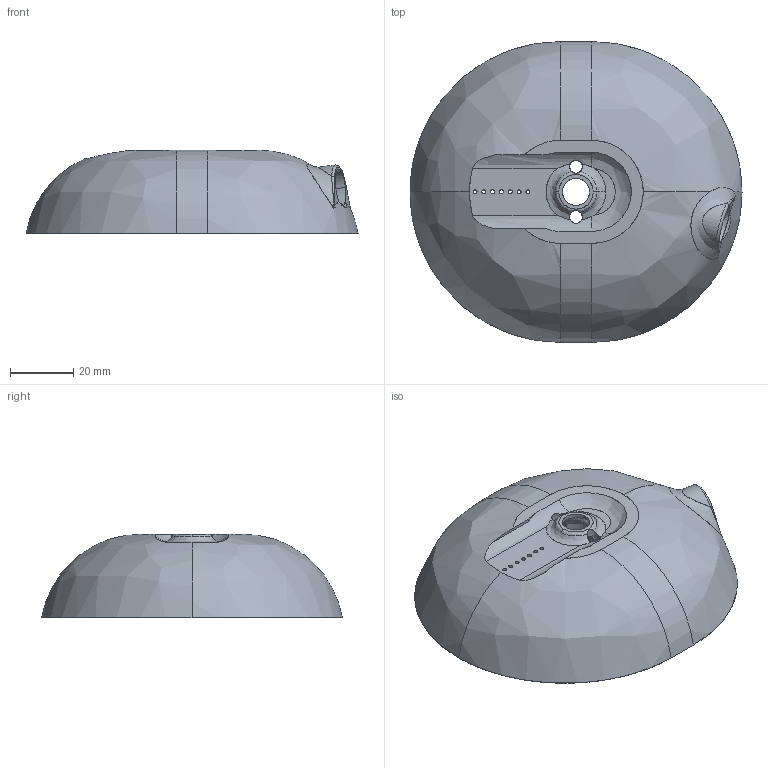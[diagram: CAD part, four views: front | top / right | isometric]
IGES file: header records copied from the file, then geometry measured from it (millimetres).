
Start section: SolidWorks IGES file using analytic representation for surfaces
Global section: file name: C:\Users\egger\OneDrive\MR SPEAKERS\PRODUCTION\T50RP HEADPHONES\OPEN ALPHA\OPEN ALPHA\IGES AND PARASOLIDS\OPEN ALPHA, LEFT CUP.IGS; native system: SolidWorks 2016; preprocessor: SolidWorks 2016; author: egger; date: 161118.063357; units: inch
Bounding box: 105.21 x 95.25 x 26.42 mm (x, y, z)
Surface area: 24799.3 mm2 (no closed solid volume)
Topology: 0 solids, 0 shells, 377 faces, 4569 edges, 4564 vertices
Faces by surface type: revolution 223, bspline 154
